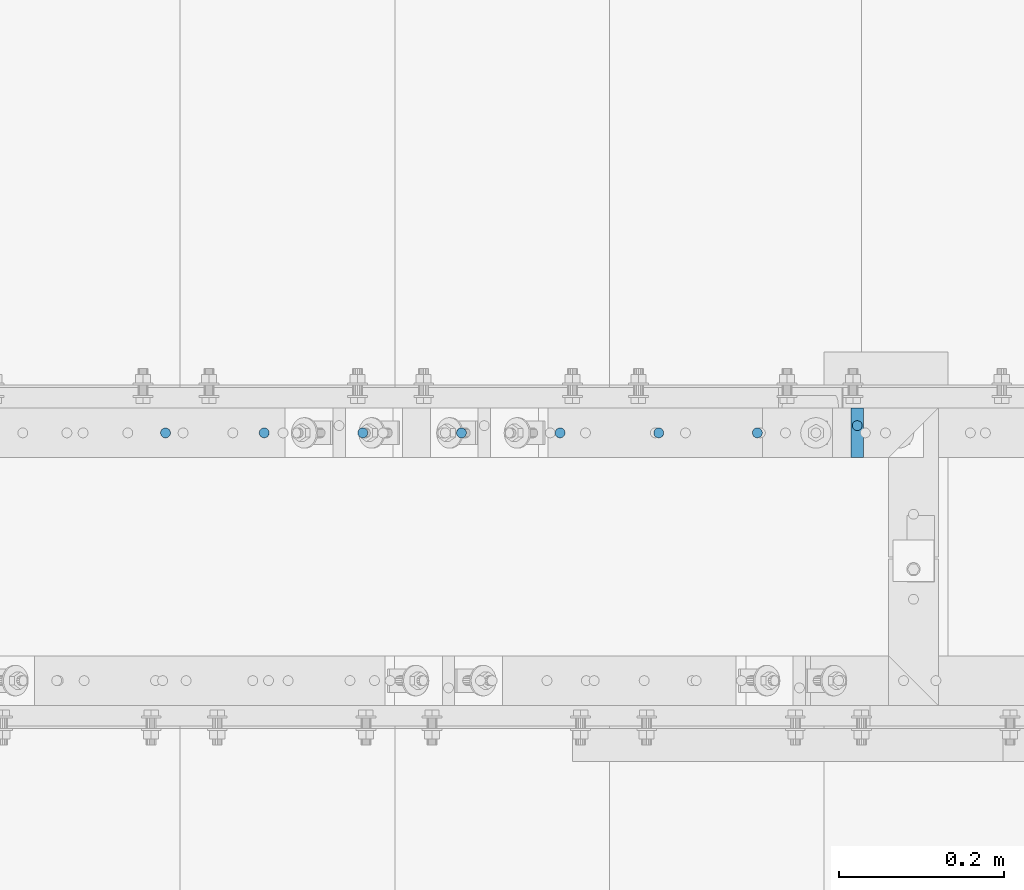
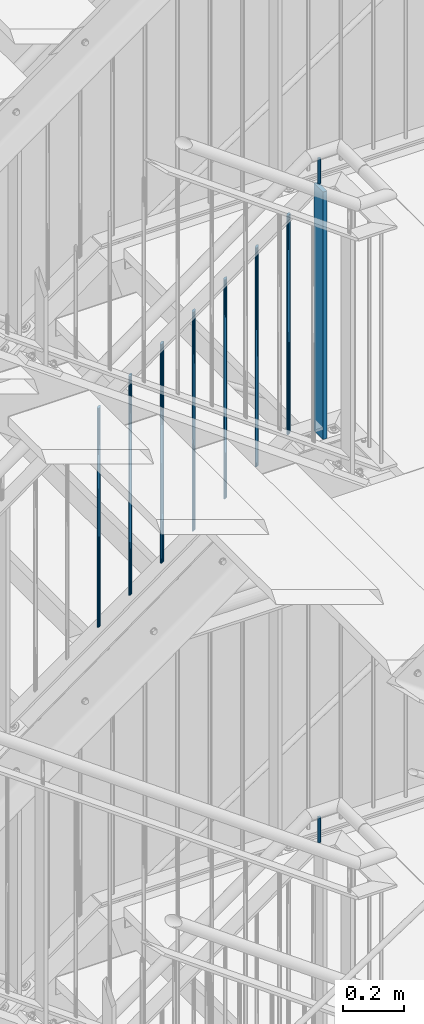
# One storey, part 56 of 825: 10 columns.
"""IFC2X3 building model written with IfcOpenShell, lengths in millimetres."""

from ifc_helpers import new_model, entity, si_unit, converted_unit, frame, origin, origin_with_axes, origin_2d, place, context, project, spatial, rectangle, circle, extrude, clip, halfspace, material, element, save


model = new_model("IFC2X3")

# Units and contexts
model_context = context("Model", 3, precision=1e-09, world=origin_with_axes())
ifc_project = project(units=[si_unit("LENGTHUNIT", "METRE", prefix="MILLI"), si_unit("AREAUNIT", "SQUARE_METRE"), si_unit("VOLUMEUNIT", "CUBIC_METRE"), converted_unit("PLANEANGLEUNIT", "DEGREE", entity("IfcPlaneAngleMeasure", 0.01745329), si_unit("PLANEANGLEUNIT", "RADIAN"), dimensions=[0, 0, 0, 0, 0, 0, 0])], contexts=[model_context])

# Site, building, storey
site_placement = place(None, origin_with_axes())
site = spatial("IfcSite", under=ifc_project, at=site_placement, Name="Cnopf'sche Kinderklinik", CompositionType="ELEMENT")
building_placement = place(site_placement, origin_with_axes())
building = spatial("IfcBuilding", under=site, at=building_placement, Name="Struktur 1", CompositionType="ELEMENT")
storey_placement = place(building_placement, origin_with_axes())
storey = spatial("IfcBuildingStorey", under=building, at=storey_placement, Name="Default Storey", CompositionType="ELEMENT", Elevation=0.0)

# Columns
ifc_material = material(Name="S235JR")
column_1_placement = place(None, frame((7096.714402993, 6100.536971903, 12392.785281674), z_axis=(0.0, 0.0, 1.0), x_axis=(0.0, -1.0, 0.0)))
element("IfcColumn", 1, at=column_1_placement, inside=storey, material=ifc_material, Name="Bar#2", ObjectType="Bar#2", context=model_context, shape_type="Clipping", body=[
    clip(clip(extrude(circle(Radius=6.0, at=origin_2d()), origin(), (0.0, 0.0, -1.0), 116.970562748), halfspace(frame((6100.536971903, -7096.714402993, -8.486281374), z_axis=(0.0, 0.0, -1.0), x_axis=(0.0, -1.0, 0.0)), True)), halfspace(frame((6100.536971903, -7096.714402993, -108.484281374), z_axis=(0.0, 0.0, 1.0), x_axis=(0.0, 1.0, 0.0)), True)),
])
column_2_placement = place(None, frame((7096.714402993, 6091.736971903, 14936.223292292), z_axis=(0.0, 0.0, 1.0), x_axis=(1.0, 0.0, 0.0)))
element("IfcColumn", 2, at=column_2_placement, inside=storey, material=ifc_material, Name="Railing_Post_Landing#2", ObjectType="Railing_Post_Landing#2", context=model_context, shape_type="Clipping", body=[
    clip(clip(extrude(rectangle(XDim=15.0, YDim=60.0, at=origin_2d()), origin(), (0.0, 0.0, -1.0), 1070.646584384), halfspace(frame((-7096.714402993, -6091.736971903, -1019.722292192), z_axis=(0.0, 0.0, 1.0), x_axis=(1.0, 0.0, 0.0)), True)), halfspace(frame((-7096.714402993, -6091.736971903, -30.924292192), z_axis=(0.0, 0.0, -1.0), x_axis=(-1.0, 0.0, 0.0)), True)),
])
column_3_placement = place(None, frame((6259.064027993, 6091.736971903, 14331.03902936), z_axis=(0.0, 0.0, 1.0), x_axis=(1.0, 0.0, 0.0)))
element("IfcColumn", 3, at=column_3_placement, inside=storey, material=ifc_material, Name="Railing_Picket_Stair#11", ObjectType="Railing_Picket_Stair#11", context=model_context, shape_type="Clipping", body=[
    clip(clip(extrude(circle(Radius=6.0, at=origin_2d()), origin(), (0.0, 0.0, -1.0), 896.017308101), halfspace(frame((-10909.040144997, -6091.736971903, -7907.54261027), z_axis=(0.586383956, 0.0, -0.810033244), x_axis=(0.0, 1.0, 0.0)), True)), halfspace(frame((-10493.392876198, -6091.736971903, -8481.719482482), z_axis=(-0.586383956, 0.0, 0.810033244), x_axis=(0.0, -1.0, 0.0)), True)),
])
column_4_placement = place(None, frame((6378.514090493, 6091.736971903, 14417.509060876), z_axis=(0.0, 0.0, 1.0), x_axis=(1.0, 0.0, 0.0)))
element("IfcColumn", 4, at=column_4_placement, inside=storey, material=ifc_material, Name="Railing_Picket_Stair#12", ObjectType="Railing_Picket_Stair#12", context=model_context, shape_type="Clipping", body=[
    clip(clip(extrude(circle(Radius=6.0, at=origin_2d()), origin(), (0.0, 0.0, -1.0), 896.017308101), halfspace(frame((-11028.490207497, -6091.736971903, -7994.012641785), z_axis=(0.586383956, 0.0, -0.810033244), x_axis=(0.0, 1.0, 0.0)), True)), halfspace(frame((-10612.842938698, -6091.736971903, -8568.189513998), z_axis=(-0.586383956, 0.0, 0.810033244), x_axis=(0.0, -1.0, 0.0)), True)),
])
column_5_placement = place(None, frame((6497.964152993, 6091.736971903, 14503.979092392), z_axis=(0.0, 0.0, 1.0), x_axis=(1.0, 0.0, 0.0)))
element("IfcColumn", 5, at=column_5_placement, inside=storey, material=ifc_material, Name="Railing_Picket_Stair#13", ObjectType="Railing_Picket_Stair#13", context=model_context, shape_type="Clipping", body=[
    clip(clip(extrude(circle(Radius=6.0, at=origin_2d()), origin(), (0.0, 0.0, -1.0), 896.017308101), halfspace(frame((-11147.940269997, -6091.736971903, -8080.482673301), z_axis=(0.586383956, 0.0, -0.810033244), x_axis=(0.0, 1.0, 0.0)), True)), halfspace(frame((-10732.293001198, -6091.736971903, -8654.659545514), z_axis=(-0.586383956, 0.0, 0.810033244), x_axis=(0.0, -1.0, 0.0)), True)),
])
column_6_placement = place(None, frame((6617.414215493, 6091.736971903, 14590.449123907), z_axis=(0.0, 0.0, 1.0), x_axis=(1.0, 0.0, 0.0)))
element("IfcColumn", 6, at=column_6_placement, inside=storey, material=ifc_material, Name="Railing_Picket_Stair#14", ObjectType="Railing_Picket_Stair#14", context=model_context, shape_type="Clipping", body=[
    clip(clip(extrude(circle(Radius=6.0, at=origin_2d()), origin(), (0.0, 0.0, -1.0), 896.017308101), halfspace(frame((-11267.390332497, -6091.736971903, -8166.952704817), z_axis=(0.586383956, 0.0, -0.810033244), x_axis=(0.0, 1.0, 0.0)), True)), halfspace(frame((-10851.743063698, -6091.736971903, -8741.129577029), z_axis=(-0.586383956, 0.0, 0.810033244), x_axis=(0.0, -1.0, 0.0)), True)),
])
column_7_placement = place(None, frame((6736.864277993, 6091.736971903, 14676.919155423), z_axis=(0.0, 0.0, 1.0), x_axis=(1.0, 0.0, 0.0)))
element("IfcColumn", 7, at=column_7_placement, inside=storey, material=ifc_material, Name="Railing_Picket_Stair#15", ObjectType="Railing_Picket_Stair#15", context=model_context, shape_type="Clipping", body=[
    clip(clip(extrude(circle(Radius=6.0, at=origin_2d()), origin(), (0.0, 0.0, -1.0), 896.017308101), halfspace(frame((-11386.840394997, -6091.736971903, -8253.422736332), z_axis=(0.586383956, 0.0, -0.810033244), x_axis=(0.0, 1.0, 0.0)), True)), halfspace(frame((-10971.193126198, -6091.736971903, -8827.599608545), z_axis=(-0.586383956, 0.0, 0.810033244), x_axis=(0.0, -1.0, 0.0)), True)),
])
column_8_placement = place(None, frame((6856.314340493, 6091.736971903, 14763.389186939), z_axis=(0.0, 0.0, 1.0), x_axis=(1.0, 0.0, 0.0)))
element("IfcColumn", 8, at=column_8_placement, inside=storey, material=ifc_material, Name="Railing_Picket_Stair#16", ObjectType="Railing_Picket_Stair#16", context=model_context, shape_type="Clipping", body=[
    clip(clip(extrude(circle(Radius=6.0, at=origin_2d()), origin(), (0.0, 0.0, -1.0), 896.017308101), halfspace(frame((-11506.290457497, -6091.736971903, -8339.892767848), z_axis=(0.586383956, 0.0, -0.810033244), x_axis=(0.0, 1.0, 0.0)), True)), halfspace(frame((-11090.643188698, -6091.736971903, -8914.069640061), z_axis=(-0.586383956, 0.0, 0.810033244), x_axis=(0.0, -1.0, 0.0)), True)),
])
column_9_placement = place(None, frame((6975.764402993, 6091.736971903, 14849.859218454), z_axis=(0.0, 0.0, 1.0), x_axis=(1.0, 0.0, 0.0)))
element("IfcColumn", 9, at=column_9_placement, inside=storey, material=ifc_material, Name="Railing_Picket_Stair#17", ObjectType="Railing_Picket_Stair#17", context=model_context, shape_type="Clipping", body=[
    clip(clip(extrude(circle(Radius=6.0, at=origin_2d()), origin(), (0.0, 0.0, -1.0), 896.017308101), halfspace(frame((-11625.740519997, -6091.736971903, -8426.362799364), z_axis=(0.586383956, 0.0, -0.810033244), x_axis=(0.0, 1.0, 0.0)), True)), halfspace(frame((-11210.093251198, -6091.736971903, -9000.539671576), z_axis=(-0.586383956, 0.0, 0.810033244), x_axis=(0.0, -1.0, 0.0)), True)),
])
column_10_placement = place(None, frame((7096.714402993, 6100.536971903, 15023.785281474), z_axis=(0.0, 0.0, 1.0), x_axis=(0.0, -1.0, 0.0)))
element("IfcColumn", 10, at=column_10_placement, inside=storey, material=ifc_material, Name="Bar#2", ObjectType="Bar#2", context=model_context, shape_type="Clipping", body=[
    clip(clip(extrude(circle(Radius=6.0, at=origin_2d()), origin(), (0.0, 0.0, -1.0), 116.970562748), halfspace(frame((6100.536971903, -7096.714402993, -8.486281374), z_axis=(0.0, 0.0, -1.0), x_axis=(0.0, -1.0, 0.0)), True)), halfspace(frame((6100.536971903, -7096.714402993, -108.484281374), z_axis=(0.0, 0.0, 1.0), x_axis=(0.0, 1.0, 0.0)), True)),
])

save(model, "model.ifc")
